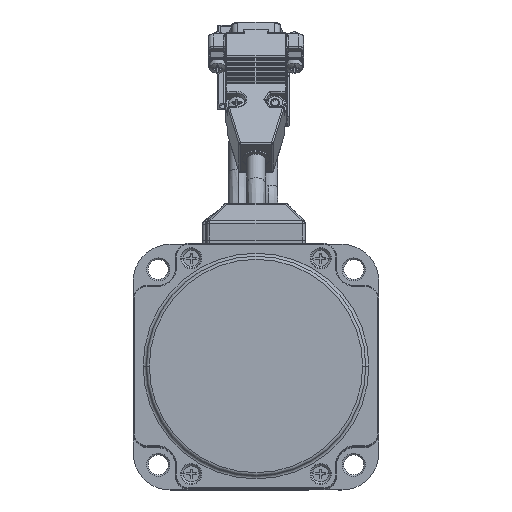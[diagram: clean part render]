
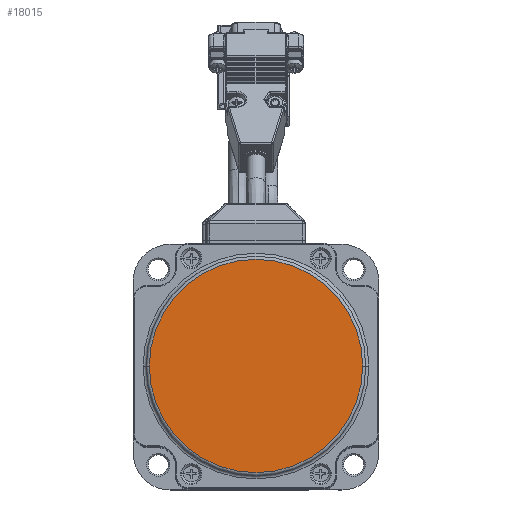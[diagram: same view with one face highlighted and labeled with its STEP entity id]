
A CAD part, top view. The second image highlights one B-rep face of the part: STEP entity #18015.
In plain terms, the highlighted planar face has unit normal (0, 0, 1).
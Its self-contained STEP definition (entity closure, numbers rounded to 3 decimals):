
#3776 = VERTEX_POINT ( 'NONE', #43669 ) ;
#18015 = ADVANCED_FACE ( 'NONE', ( #32149 ), #40772, .T. ) ;
#18798 = EDGE_CURVE ( 'NONE', #3776, #25858, #36566, .T. ) ;
#25858 = VERTEX_POINT ( 'NONE', #55808 ) ;
#32149 = FACE_OUTER_BOUND ( 'NONE', #68704, .T. ) ;
#34650 = AXIS2_PLACEMENT_3D ( 'NONE', #40774, #40776, #40778 ) ;
#36566 = CIRCLE ( 'NONE', #36609, 34.75 ) ;
#36609 = AXIS2_PLACEMENT_3D ( 'NONE', #51669, #51670, #51671 ) ;
#40772 = PLANE ( 'NONE',  #34650 ) ;
#40774 = CARTESIAN_POINT ( 'NONE',  ( 0., 0., 6.5 ) ) ;
#40776 = DIRECTION ( 'NONE',  ( 0., 0., 1. ) ) ;
#40778 = DIRECTION ( 'NONE',  ( 1., 0., 0. ) ) ;
#43669 = CARTESIAN_POINT ( 'NONE',  ( 34.75, 0., 6.5 ) ) ;
#51669 = CARTESIAN_POINT ( 'NONE',  ( 0., 0., 6.5 ) ) ;
#51670 = DIRECTION ( 'NONE',  ( 0., 0., 1. ) ) ;
#51671 = DIRECTION ( 'NONE',  ( 1., 0., 0. ) ) ;
#55808 = CARTESIAN_POINT ( 'NONE',  ( -34.75, 0., 6.5 ) ) ;
#58557 = ORIENTED_EDGE ( 'NONE', *, *, #95138, .T. ) ;
#59437 = ORIENTED_EDGE ( 'NONE', *, *, #18798, .T. ) ;
#68704 = EDGE_LOOP ( 'NONE', ( #59437, #58557 ) ) ;
#89458 = CIRCLE ( 'NONE', #89464, 34.75 ) ;
#89464 = AXIS2_PLACEMENT_3D ( 'NONE', #93212, #93213, #93214 ) ;
#93212 = CARTESIAN_POINT ( 'NONE',  ( 0., 0., 6.5 ) ) ;
#93213 = DIRECTION ( 'NONE',  ( 0., 0., 1. ) ) ;
#93214 = DIRECTION ( 'NONE',  ( 1., 0., 0. ) ) ;
#95138 = EDGE_CURVE ( 'NONE', #25858, #3776, #89458, .T. ) ;
